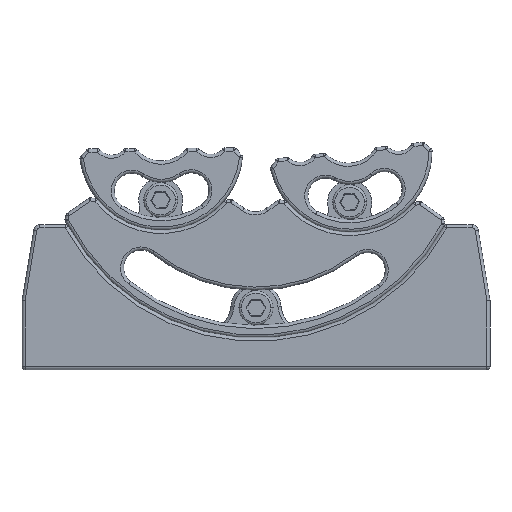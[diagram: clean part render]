
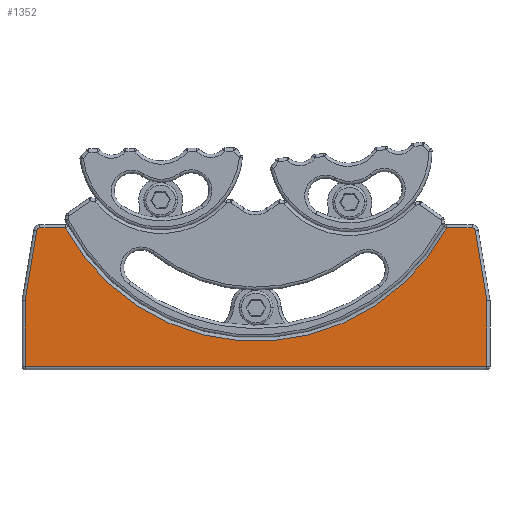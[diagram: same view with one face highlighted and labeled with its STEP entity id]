
A CAD part, front view. The second image highlights one B-rep face of the part: STEP entity #1352.
In plain terms, the highlighted planar face has unit normal (0, -1, 0).
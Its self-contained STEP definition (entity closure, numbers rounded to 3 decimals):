
#15=DIRECTION('',(-1.,0.,0.));
#16=VECTOR('',#15,73.297);
#17=CARTESIAN_POINT('',(36.649,-8.25,-17.5));
#18=LINE('',#17,#16);
#19=DIRECTION('',(0.,0.,1.));
#20=VECTOR('',#19,10.459);
#21=CARTESIAN_POINT('',(-36.649,-8.25,-17.5));
#22=LINE('',#21,#20);
#23=DIRECTION('',(-0.164,0.,-0.986));
#24=VECTOR('',#23,11.277);
#25=CARTESIAN_POINT('',(-34.795,-8.25,4.082));
#26=LINE('',#25,#24);
#27=CARTESIAN_POINT('',(-34.301,-8.25,4.));
#28=DIRECTION('',(0.,-1.,0.));
#29=DIRECTION('',(0.,0.,1.));
#30=AXIS2_PLACEMENT_3D('',#27,#28,#29);
#32=DIRECTION('',(-1.,0.,0.));
#33=VECTOR('',#32,4.027);
#34=CARTESIAN_POINT('',(-30.275,-8.25,4.5));
#35=LINE('',#34,#33);
#36=CARTESIAN_POINT('',(0.,-8.25,20.96));
#37=DIRECTION('',(0.,1.,0.));
#38=DIRECTION('',(0.879,0.,-0.478));
#39=AXIS2_PLACEMENT_3D('',#36,#37,#38);
#41=DIRECTION('',(-1.,0.,0.));
#42=VECTOR('',#41,4.027);
#43=CARTESIAN_POINT('',(34.301,-8.25,4.5));
#44=LINE('',#43,#42);
#45=CARTESIAN_POINT('',(34.301,-8.25,4.));
#46=DIRECTION('',(0.,-1.,0.));
#47=DIRECTION('',(0.986,0.,0.164));
#48=AXIS2_PLACEMENT_3D('',#45,#46,#47);
#50=DIRECTION('',(-0.164,0.,0.986));
#51=VECTOR('',#50,11.277);
#52=CARTESIAN_POINT('',(36.649,-8.25,-7.041));
#53=LINE('',#52,#51);
#429=DIRECTION('',(0.,0.,1.));
#430=VECTOR('',#429,10.459);
#431=CARTESIAN_POINT('',(36.649,-8.25,-17.5));
#432=LINE('',#431,#430);
#1149=CARTESIAN_POINT('',(36.649,-8.25,-7.041));
#1150=CARTESIAN_POINT('',(34.795,-8.25,4.082));
#1151=VERTEX_POINT('',#1149);
#1152=VERTEX_POINT('',#1150);
#1157=CARTESIAN_POINT('',(34.301,-8.25,4.5));
#1158=VERTEX_POINT('',#1157);
#1161=CARTESIAN_POINT('',(-30.275,-8.25,4.5));
#1162=CARTESIAN_POINT('',(-34.301,-8.25,4.5));
#1163=VERTEX_POINT('',#1161);
#1164=VERTEX_POINT('',#1162);
#1173=CARTESIAN_POINT('',(30.275,-8.25,4.5));
#1174=VERTEX_POINT('',#1173);
#1177=CARTESIAN_POINT('',(-34.795,-8.25,4.082));
#1178=VERTEX_POINT('',#1177);
#1183=CARTESIAN_POINT('',(-36.649,-8.25,-7.041));
#1184=VERTEX_POINT('',#1183);
#1219=CARTESIAN_POINT('',(36.649,-8.25,-17.5));
#1220=VERTEX_POINT('',#1219);
#1223=CARTESIAN_POINT('',(-36.649,-8.25,-17.5));
#1224=VERTEX_POINT('',#1223);
#1325=CARTESIAN_POINT('',(0.,-8.25,0.));
#1326=DIRECTION('',(0.,1.,0.));
#1327=DIRECTION('',(1.,0.,0.));
#1328=AXIS2_PLACEMENT_3D('',#1325,#1326,#1327);
#1329=PLANE('',#1328);
#1331=ORIENTED_EDGE('',*,*,#1330,.T.);
#1333=ORIENTED_EDGE('',*,*,#1332,.T.);
#1335=ORIENTED_EDGE('',*,*,#1334,.F.);
#1337=ORIENTED_EDGE('',*,*,#1336,.F.);
#1339=ORIENTED_EDGE('',*,*,#1338,.F.);
#1341=ORIENTED_EDGE('',*,*,#1340,.F.);
#1343=ORIENTED_EDGE('',*,*,#1342,.F.);
#1345=ORIENTED_EDGE('',*,*,#1344,.F.);
#1347=ORIENTED_EDGE('',*,*,#1346,.F.);
#1349=ORIENTED_EDGE('',*,*,#1348,.F.);
#1350=EDGE_LOOP('',(#1331,#1333,#1335,#1337,#1339,#1341,#1343,#1345,#1347,
#1349));
#1351=FACE_OUTER_BOUND('',#1350,.F.);
#1352=ADVANCED_FACE('',(#1351),#1329,.F.);
#31=CIRCLE('',#30,0.5);
#40=CIRCLE('',#39,34.46);
#49=CIRCLE('',#48,0.5);
#1330=EDGE_CURVE('',#1220,#1224,#18,.T.);
#1332=EDGE_CURVE('',#1224,#1184,#22,.T.);
#1334=EDGE_CURVE('',#1178,#1184,#26,.T.);
#1336=EDGE_CURVE('',#1164,#1178,#31,.T.);
#1338=EDGE_CURVE('',#1163,#1164,#35,.T.);
#1340=EDGE_CURVE('',#1174,#1163,#40,.T.);
#1342=EDGE_CURVE('',#1158,#1174,#44,.T.);
#1344=EDGE_CURVE('',#1152,#1158,#49,.T.);
#1346=EDGE_CURVE('',#1151,#1152,#53,.T.);
#1348=EDGE_CURVE('',#1220,#1151,#432,.T.);
